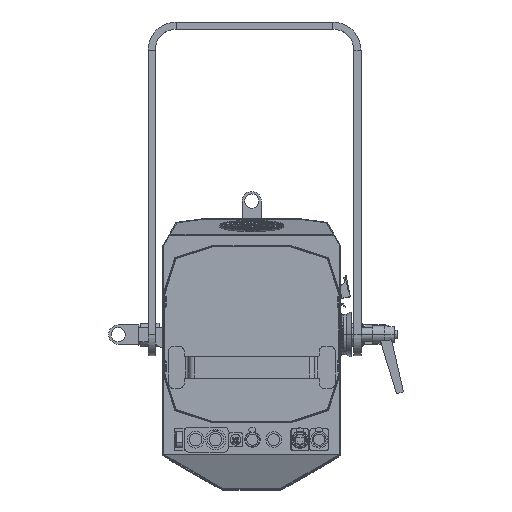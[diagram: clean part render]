
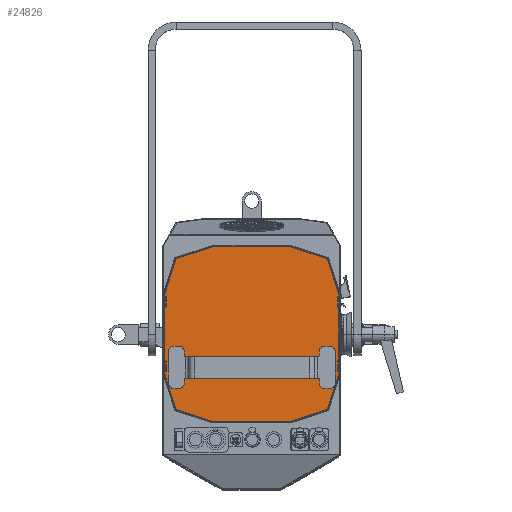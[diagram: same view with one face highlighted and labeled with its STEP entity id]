
A CAD part, top view. The second image highlights one B-rep face of the part: STEP entity #24826.
In plain terms, the highlighted planar face has unit normal (0, 0, 1).
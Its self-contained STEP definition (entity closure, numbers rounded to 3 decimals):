
#870 = LINE ( 'NONE', #16270, #43411 ) ;
#4109 = ORIENTED_EDGE ( 'NONE', *, *, #85233, .F. ) ;
#5004 = CARTESIAN_POINT ( 'NONE',  ( 123.033, -54.581, 215.3 ) ) ;
#6387 = DIRECTION ( 'NONE',  ( -0.951, -0.309, 0. ) ) ;
#9317 = ORIENTED_EDGE ( 'NONE', *, *, #49948, .F. ) ;
#11480 = CARTESIAN_POINT ( 'NONE',  ( -106.677, 106.106, 215.3 ) ) ;
#11485 = DIRECTION ( 'NONE',  ( -0.951, 0.309, 0. ) ) ;
#13349 = EDGE_CURVE ( 'NONE', #83644, #30417, #110190, .T. ) ;
#15652 = ORIENTED_EDGE ( 'NONE', *, *, #43134, .T. ) ;
#16270 = CARTESIAN_POINT ( 'NONE',  ( 123., 0., 215.3 ) ) ;
#17529 = LINE ( 'NONE', #25735, #55923 ) ;
#17541 = VERTEX_POINT ( 'NONE', #29997 ) ;
#18045 = CARTESIAN_POINT ( 'NONE',  ( 106.246, 106.246, 215.3 ) ) ;
#18174 = DIRECTION ( 'NONE',  ( 0., 1., 0. ) ) ;
#19634 = VECTOR ( 'NONE', #101504, 1000. ) ;
#20664 = LINE ( 'NONE', #83614, #34837 ) ;
#24393 = ORIENTED_EDGE ( 'NONE', *, *, #80503, .T. ) ;
#24826 = ADVANCED_FACE ( 'NONE', ( #79486 ), #47896, .F. ) ;
#25387 = CARTESIAN_POINT ( 'NONE',  ( 106.677, -106.106, 215.3 ) ) ;
#25735 = CARTESIAN_POINT ( 'NONE',  ( -123., 0., 215.3 ) ) ;
#26460 = DIRECTION ( 'NONE',  ( 0.951, -0.309, 0. ) ) ;
#28416 = VECTOR ( 'NONE', #86776, 1000. ) ;
#29705 = CARTESIAN_POINT ( 'NONE',  ( 0., 0., 215.3 ) ) ;
#29997 = CARTESIAN_POINT ( 'NONE',  ( 54.683, 123., 215.3 ) ) ;
#30417 = VERTEX_POINT ( 'NONE', #40488 ) ;
#30507 = DIRECTION ( 'NONE',  ( 0.309, 0.951, 0. ) ) ;
#34837 = VECTOR ( 'NONE', #26460, 1000. ) ;
#35384 = LINE ( 'NONE', #74189, #73707 ) ;
#36224 = ORIENTED_EDGE ( 'NONE', *, *, #92551, .F. ) ;
#36335 = CARTESIAN_POINT ( 'NONE',  ( 123., 54.683, 215.3 ) ) ;
#38083 = VERTEX_POINT ( 'NONE', #104255 ) ;
#39207 = DIRECTION ( 'NONE',  ( 0., 0., -1. ) ) ;
#39508 = EDGE_CURVE ( 'NONE', #38083, #57615, #17529, .T. ) ;
#39512 = CARTESIAN_POINT ( 'NONE',  ( -123., 54.683, 215.3 ) ) ;
#40488 = CARTESIAN_POINT ( 'NONE',  ( 54.683, -123., 215.3 ) ) ;
#41997 = CARTESIAN_POINT ( 'NONE',  ( -123.033, -54.581, 215.3 ) ) ;
#42073 = DIRECTION ( 'NONE',  ( -0.309, 0.951, 0. ) ) ;
#42743 = EDGE_CURVE ( 'NONE', #17541, #108854, #48184, .T. ) ;
#43134 = EDGE_CURVE ( 'NONE', #100723, #17541, #35384, .T. ) ;
#43411 = VECTOR ( 'NONE', #97567, 1000. ) ;
#46857 = EDGE_CURVE ( 'NONE', #57272, #82136, #20664, .T. ) ;
#47508 = ORIENTED_EDGE ( 'NONE', *, *, #39508, .F. ) ;
#47896 = PLANE ( 'NONE',  #94735 ) ;
#48184 = LINE ( 'NONE', #115760, #55238 ) ;
#49948 = EDGE_CURVE ( 'NONE', #104076, #108854, #75198, .T. ) ;
#50192 = LINE ( 'NONE', #78101, #78500 ) ;
#52320 = LINE ( 'NONE', #66907, #56559 ) ;
#52982 = ORIENTED_EDGE ( 'NONE', *, *, #46857, .T. ) ;
#54587 = CARTESIAN_POINT ( 'NONE',  ( -54.683, -123., 215.3 ) ) ;
#55238 = VECTOR ( 'NONE', #114962, 1000. ) ;
#55923 = VECTOR ( 'NONE', #18174, 1000. ) ;
#56559 = VECTOR ( 'NONE', #30507, 1000. ) ;
#57272 = VERTEX_POINT ( 'NONE', #60683 ) ;
#57615 = VERTEX_POINT ( 'NONE', #39512 ) ;
#60683 = CARTESIAN_POINT ( 'NONE',  ( -106.246, -106.246, 215.3 ) ) ;
#60964 = LINE ( 'NONE', #5004, #107802 ) ;
#61392 = ORIENTED_EDGE ( 'NONE', *, *, #72107, .T. ) ;
#61643 = ORIENTED_EDGE ( 'NONE', *, *, #73499, .T. ) ;
#61741 = ORIENTED_EDGE ( 'NONE', *, *, #13349, .F. ) ;
#65033 = DIRECTION ( 'NONE',  ( 0.951, 0.309, 0. ) ) ;
#66907 = CARTESIAN_POINT ( 'NONE',  ( -123.033, 54.581, 215.3 ) ) ;
#72107 = EDGE_CURVE ( 'NONE', #92898, #100723, #50192, .T. ) ;
#73499 = EDGE_CURVE ( 'NONE', #38083, #57272, #117611, .T. ) ;
#73707 = VECTOR ( 'NONE', #11485, 1000. ) ;
#74153 = CARTESIAN_POINT ( 'NONE',  ( 54.791, -123., 215.3 ) ) ;
#74189 = CARTESIAN_POINT ( 'NONE',  ( 106.677, 106.106, 215.3 ) ) ;
#74327 = VERTEX_POINT ( 'NONE', #113747 ) ;
#75198 = LINE ( 'NONE', #11480, #99314 ) ;
#78101 = CARTESIAN_POINT ( 'NONE',  ( 123.033, 54.581, 215.3 ) ) ;
#78500 = VECTOR ( 'NONE', #42073, 1000. ) ;
#78878 = CARTESIAN_POINT ( 'NONE',  ( 106.246, -106.246, 215.3 ) ) ;
#79486 = FACE_OUTER_BOUND ( 'NONE', #92744, .T. ) ;
#80503 = EDGE_CURVE ( 'NONE', #74327, #92898, #870, .T. ) ;
#82136 = VERTEX_POINT ( 'NONE', #54587 ) ;
#83308 = VECTOR ( 'NONE', #6387, 1000. ) ;
#83614 = CARTESIAN_POINT ( 'NONE',  ( -106.677, -106.106, 215.3 ) ) ;
#83644 = VERTEX_POINT ( 'NONE', #78878 ) ;
#83985 = DIRECTION ( 'NONE',  ( -1., 0., 0. ) ) ;
#85233 = EDGE_CURVE ( 'NONE', #30417, #82136, #107511, .T. ) ;
#86776 = DIRECTION ( 'NONE',  ( 0.309, -0.951, 0. ) ) ;
#92551 = EDGE_CURVE ( 'NONE', #74327, #83644, #60964, .T. ) ;
#92744 = EDGE_LOOP ( 'NONE', ( #24393, #61392, #15652, #96951, #9317, #105938, #47508, #61643, #52982, #4109, #61741, #36224 ) ) ;
#92898 = VERTEX_POINT ( 'NONE', #36335 ) ;
#92982 = CARTESIAN_POINT ( 'NONE',  ( -106.246, 106.246, 215.3 ) ) ;
#94735 = AXIS2_PLACEMENT_3D ( 'NONE', #29705, #39207, #83985 ) ;
#96951 = ORIENTED_EDGE ( 'NONE', *, *, #42743, .T. ) ;
#97567 = DIRECTION ( 'NONE',  ( 0., 1., 0. ) ) ;
#99314 = VECTOR ( 'NONE', #65033, 1000. ) ;
#100723 = VERTEX_POINT ( 'NONE', #18045 ) ;
#101504 = DIRECTION ( 'NONE',  ( -1., 0., 0. ) ) ;
#104076 = VERTEX_POINT ( 'NONE', #92982 ) ;
#104255 = CARTESIAN_POINT ( 'NONE',  ( -123., -54.683, 215.3 ) ) ;
#104479 = EDGE_CURVE ( 'NONE', #57615, #104076, #52320, .T. ) ;
#105938 = ORIENTED_EDGE ( 'NONE', *, *, #104479, .F. ) ;
#107511 = LINE ( 'NONE', #74153, #19634 ) ;
#107802 = VECTOR ( 'NONE', #113195, 1000. ) ;
#108854 = VERTEX_POINT ( 'NONE', #113058 ) ;
#110190 = LINE ( 'NONE', #25387, #83308 ) ;
#113058 = CARTESIAN_POINT ( 'NONE',  ( -54.683, 123., 215.3 ) ) ;
#113195 = DIRECTION ( 'NONE',  ( -0.309, -0.951, 0. ) ) ;
#113747 = CARTESIAN_POINT ( 'NONE',  ( 123., -54.683, 215.3 ) ) ;
#114962 = DIRECTION ( 'NONE',  ( -1., 0., 0. ) ) ;
#115760 = CARTESIAN_POINT ( 'NONE',  ( 54.791, 123., 215.3 ) ) ;
#117611 = LINE ( 'NONE', #41997, #28416 ) ;
